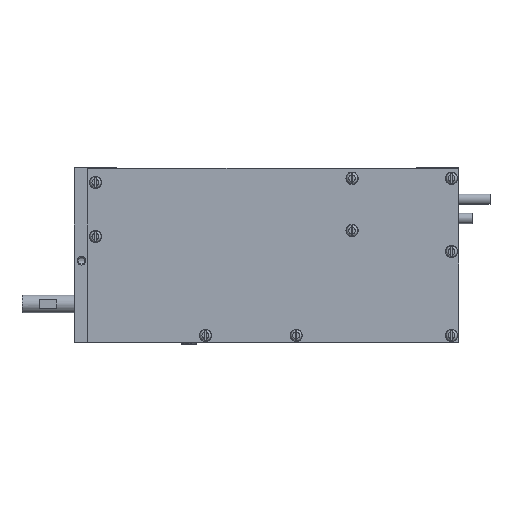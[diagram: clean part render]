
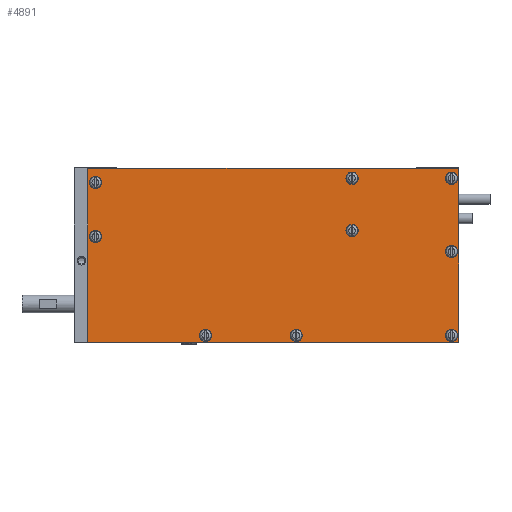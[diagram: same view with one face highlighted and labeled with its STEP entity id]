
A CAD part, top view. The second image highlights one B-rep face of the part: STEP entity #4891.
In plain terms, the highlighted planar face has unit normal (0, 0, 1).
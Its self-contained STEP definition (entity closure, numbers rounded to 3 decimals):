
#2483=CARTESIAN_POINT('',(0.0,-37.22,1.598));
#2484=VERTEX_POINT('',#2483);
#2491=CARTESIAN_POINT('',(0.,12.58,1.598));
#2492=VERTEX_POINT('',#2491);
#2493=CARTESIAN_POINT('',(0.0,-37.22,1.598));
#2494=DIRECTION('',(0.0,1.0,0.0));
#2495=VECTOR('',#2494,49.8);
#2496=LINE('',#2493,#2495);
#2497=EDGE_CURVE('',#2484,#2492,#2496,.T.);
#3704=CARTESIAN_POINT('',(77.45,-5.22,1.598));
#3705=VERTEX_POINT('',#3704);
#3706=CARTESIAN_POINT('',(75.7,-5.22,1.598));
#3707=DIRECTION('',(0.0,0.0,-1.0));
#3708=DIRECTION('',(1.0,0.0,0.0));
#3709=AXIS2_PLACEMENT_3D('',#3706,#3707,#3708);
#3710=CIRCLE('',#3709,1.75);
#3711=EDGE_CURVE('',#3705,#3705,#3710,.T.);
#3806=CARTESIAN_POINT('',(105.95,-35.22,1.598));
#3807=VERTEX_POINT('',#3806);
#3808=CARTESIAN_POINT('',(104.2,-35.22,1.598));
#3809=DIRECTION('',(0.0,0.0,-1.0));
#3810=DIRECTION('',(1.0,0.0,0.0));
#3811=AXIS2_PLACEMENT_3D('',#3808,#3809,#3810);
#3812=CIRCLE('',#3811,1.75);
#3813=EDGE_CURVE('',#3807,#3807,#3812,.T.);
#3908=CARTESIAN_POINT('',(105.95,-11.22,1.598));
#3909=VERTEX_POINT('',#3908);
#3910=CARTESIAN_POINT('',(104.2,-11.22,1.598));
#3911=DIRECTION('',(0.0,0.0,-1.0));
#3912=DIRECTION('',(1.0,0.0,0.0));
#3913=AXIS2_PLACEMENT_3D('',#3910,#3911,#3912);
#3914=CIRCLE('',#3913,1.75);
#3915=EDGE_CURVE('',#3909,#3909,#3914,.T.);
#4010=CARTESIAN_POINT('',(61.45,-35.22,1.598));
#4011=VERTEX_POINT('',#4010);
#4012=CARTESIAN_POINT('',(59.7,-35.22,1.598));
#4013=DIRECTION('',(0.0,0.0,-1.0));
#4014=DIRECTION('',(1.0,0.0,0.0));
#4015=AXIS2_PLACEMENT_3D('',#4012,#4013,#4014);
#4016=CIRCLE('',#4015,1.75);
#4017=EDGE_CURVE('',#4011,#4011,#4016,.T.);
#4112=CARTESIAN_POINT('',(77.45,9.78,1.598));
#4113=VERTEX_POINT('',#4112);
#4114=CARTESIAN_POINT('',(75.7,9.78,1.598));
#4115=DIRECTION('',(0.0,0.0,-1.0));
#4116=DIRECTION('',(1.0,0.0,0.0));
#4117=AXIS2_PLACEMENT_3D('',#4114,#4115,#4116);
#4118=CIRCLE('',#4117,1.75);
#4119=EDGE_CURVE('',#4113,#4113,#4118,.T.);
#4243=CARTESIAN_POINT('',(105.95,9.78,1.598));
#4244=VERTEX_POINT('',#4243);
#4245=CARTESIAN_POINT('',(104.2,9.78,1.598));
#4246=DIRECTION('',(0.0,0.0,-1.0));
#4247=DIRECTION('',(1.0,0.0,0.0));
#4248=AXIS2_PLACEMENT_3D('',#4245,#4246,#4247);
#4249=CIRCLE('',#4248,1.75);
#4250=EDGE_CURVE('',#4244,#4244,#4249,.T.);
#4536=CARTESIAN_POINT('',(35.45,-35.22,1.598));
#4537=VERTEX_POINT('',#4536);
#4538=CARTESIAN_POINT('',(33.7,-35.22,1.598));
#4539=DIRECTION('',(0.0,0.0,-1.0));
#4540=DIRECTION('',(1.0,0.0,0.0));
#4541=AXIS2_PLACEMENT_3D('',#4538,#4539,#4540);
#4542=CIRCLE('',#4541,1.75);
#4543=EDGE_CURVE('',#4537,#4537,#4542,.T.);
#4638=CARTESIAN_POINT('',(3.95,-6.92,1.598));
#4639=VERTEX_POINT('',#4638);
#4640=CARTESIAN_POINT('',(2.2,-6.92,1.598));
#4641=DIRECTION('',(0.0,0.0,-1.0));
#4642=DIRECTION('',(1.0,0.0,0.0));
#4643=AXIS2_PLACEMENT_3D('',#4640,#4641,#4642);
#4644=CIRCLE('',#4643,1.75);
#4645=EDGE_CURVE('',#4639,#4639,#4644,.T.);
#4740=CARTESIAN_POINT('',(3.95,8.58,1.598));
#4741=VERTEX_POINT('',#4740);
#4742=CARTESIAN_POINT('',(2.2,8.58,1.598));
#4743=DIRECTION('',(0.0,0.0,-1.0));
#4744=DIRECTION('',(1.0,0.0,0.0));
#4745=AXIS2_PLACEMENT_3D('',#4742,#4743,#4744);
#4746=CIRCLE('',#4745,1.75);
#4747=EDGE_CURVE('',#4741,#4741,#4746,.T.);
#4793=CARTESIAN_POINT('',(106.2,12.58,1.598));
#4794=VERTEX_POINT('',#4793);
#4795=CARTESIAN_POINT('',(106.2,-37.22,1.598));
#4796=VERTEX_POINT('',#4795);
#4797=CARTESIAN_POINT('',(106.2,12.58,1.598));
#4798=DIRECTION('',(0.0,-1.0,0.0));
#4799=VECTOR('',#4798,49.8);
#4800=LINE('',#4797,#4799);
#4801=EDGE_CURVE('',#4794,#4796,#4800,.T.);
#4824=CARTESIAN_POINT('',(106.2,-37.22,1.598));
#4825=DIRECTION('',(-1.0,0.0,0.0));
#4826=VECTOR('',#4825,106.2);
#4827=LINE('',#4824,#4826);
#4828=EDGE_CURVE('',#4796,#2484,#4827,.T.);
#4841=CARTESIAN_POINT('',(0.,12.58,1.598));
#4842=DIRECTION('',(1.0,0.0,0.0));
#4843=VECTOR('',#4842,106.2);
#4844=LINE('',#4841,#4843);
#4845=EDGE_CURVE('',#2492,#4794,#4844,.T.);
#4853=CARTESIAN_POINT('',(53.1,-12.32,1.598));
#4854=DIRECTION('',(0.0,0.0,1.0));
#4855=DIRECTION('',(1.0,0.0,0.0));
#4856=AXIS2_PLACEMENT_3D('',#4853,#4854,#4855);
#4857=PLANE('',#4856);
#4858=ORIENTED_EDGE('',*,*,#4801,.F.);
#4859=ORIENTED_EDGE('',*,*,#4845,.F.);
#4860=ORIENTED_EDGE('',*,*,#2497,.F.);
#4861=ORIENTED_EDGE('',*,*,#4828,.F.);
#4862=EDGE_LOOP('',(#4858,#4859,#4860,#4861));
#4863=FACE_OUTER_BOUND('',#4862,.T.);
#4864=ORIENTED_EDGE('',*,*,#3711,.T.);
#4865=EDGE_LOOP('',(#4864));
#4866=FACE_BOUND('',#4865,.T.);
#4867=ORIENTED_EDGE('',*,*,#3813,.T.);
#4868=EDGE_LOOP('',(#4867));
#4869=FACE_BOUND('',#4868,.T.);
#4870=ORIENTED_EDGE('',*,*,#3915,.T.);
#4871=EDGE_LOOP('',(#4870));
#4872=FACE_BOUND('',#4871,.T.);
#4873=ORIENTED_EDGE('',*,*,#4017,.T.);
#4874=EDGE_LOOP('',(#4873));
#4875=FACE_BOUND('',#4874,.T.);
#4876=ORIENTED_EDGE('',*,*,#4119,.T.);
#4877=EDGE_LOOP('',(#4876));
#4878=FACE_BOUND('',#4877,.T.);
#4879=ORIENTED_EDGE('',*,*,#4250,.T.);
#4880=EDGE_LOOP('',(#4879));
#4881=FACE_BOUND('',#4880,.T.);
#4882=ORIENTED_EDGE('',*,*,#4543,.T.);
#4883=EDGE_LOOP('',(#4882));
#4884=FACE_BOUND('',#4883,.T.);
#4885=ORIENTED_EDGE('',*,*,#4645,.T.);
#4886=EDGE_LOOP('',(#4885));
#4887=FACE_BOUND('',#4886,.T.);
#4888=ORIENTED_EDGE('',*,*,#4747,.T.);
#4889=EDGE_LOOP('',(#4888));
#4890=FACE_BOUND('',#4889,.T.);
#4891=ADVANCED_FACE('',(#4863,#4866,#4869,#4872,#4875,#4878,#4881,#4884,#4887,#4890),#4857,.T.);
